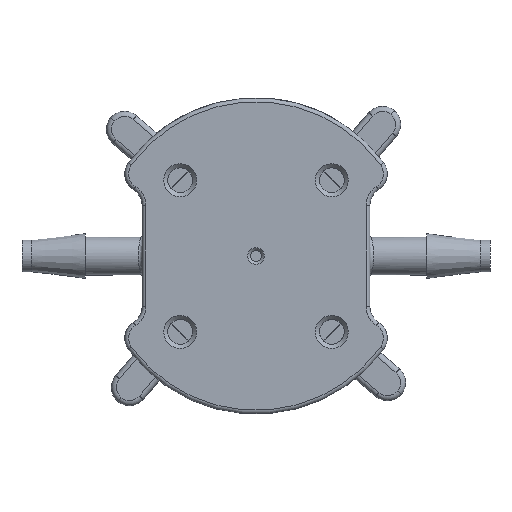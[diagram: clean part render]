
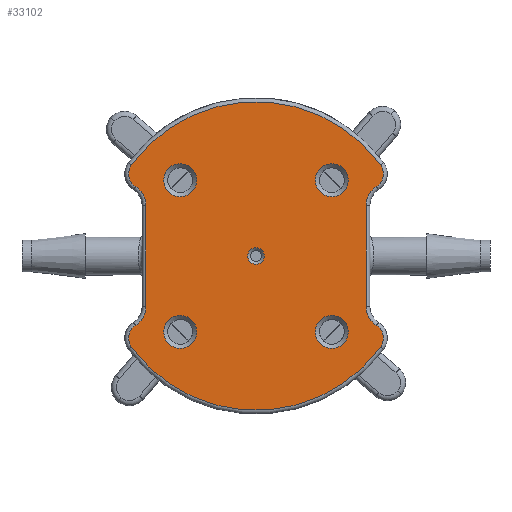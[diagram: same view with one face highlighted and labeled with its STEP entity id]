
A CAD part, front view. The second image highlights one B-rep face of the part: STEP entity #33102.
In plain terms, the highlighted planar face has unit normal (0, -1, 0).
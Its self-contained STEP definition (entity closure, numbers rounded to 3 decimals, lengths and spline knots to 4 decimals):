
#2892=LINE('',#55126,#5907);
#2894=LINE('',#55159,#5909);
#5907=VECTOR('',#41559,0.3937);
#5909=VECTOR('',#41603,0.3937);
#7516=FACE_BOUND('',#10645,.T.);
#7517=FACE_BOUND('',#10646,.T.);
#7518=FACE_BOUND('',#10647,.T.);
#7519=FACE_BOUND('',#10648,.T.);
#7520=FACE_BOUND('',#10649,.T.);
#8807=FACE_OUTER_BOUND('',#10644,.T.);
#10644=EDGE_LOOP('',(#26426,#26427,#26428,#26429,#26430,#26431,#26432,#26433,
#26434,#26435,#26436,#26437));
#10645=EDGE_LOOP('',(#26438));
#10646=EDGE_LOOP('',(#26439));
#10647=EDGE_LOOP('',(#26440));
#10648=EDGE_LOOP('',(#26441));
#10649=EDGE_LOOP('',(#26442));
#11677=CIRCLE('',#35166,0.18);
#11682=CIRCLE('',#35172,0.12);
#11685=CIRCLE('',#35176,1.22);
#11688=CIRCLE('',#35180,0.12);
#11691=CIRCLE('',#35184,0.18);
#11695=CIRCLE('',#35190,0.18);
#11698=CIRCLE('',#35194,0.12);
#11701=CIRCLE('',#35198,1.22);
#11704=CIRCLE('',#35202,0.12);
#11707=CIRCLE('',#35206,0.18);
#11713=CIRCLE('',#35220,0.13);
#11714=CIRCLE('',#35221,0.13);
#11715=CIRCLE('',#35222,0.13);
#11716=CIRCLE('',#35223,0.13);
#11717=CIRCLE('',#35224,0.065);
#14309=VERTEX_POINT('',#55090);
#14310=VERTEX_POINT('',#55092);
#14312=VERTEX_POINT('',#55098);
#14314=VERTEX_POINT('',#55104);
#14316=VERTEX_POINT('',#55110);
#14318=VERTEX_POINT('',#55116);
#14320=VERTEX_POINT('',#55122);
#14322=VERTEX_POINT('',#55128);
#14324=VERTEX_POINT('',#55134);
#14326=VERTEX_POINT('',#55140);
#14328=VERTEX_POINT('',#55146);
#14330=VERTEX_POINT('',#55152);
#14340=VERTEX_POINT('',#55200);
#14341=VERTEX_POINT('',#55202);
#14342=VERTEX_POINT('',#55204);
#14343=VERTEX_POINT('',#55206);
#14344=VERTEX_POINT('',#55208);
#18475=EDGE_CURVE('',#14309,#14310,#11677,.T.);
#18480=EDGE_CURVE('',#14310,#14312,#11682,.T.);
#18483=EDGE_CURVE('',#14312,#14314,#11685,.T.);
#18486=EDGE_CURVE('',#14314,#14316,#11688,.T.);
#18489=EDGE_CURVE('',#14316,#14318,#11691,.T.);
#18492=EDGE_CURVE('',#14318,#14320,#2892,.T.);
#18495=EDGE_CURVE('',#14320,#14322,#11695,.T.);
#18498=EDGE_CURVE('',#14322,#14324,#11698,.T.);
#18501=EDGE_CURVE('',#14324,#14326,#11701,.T.);
#18504=EDGE_CURVE('',#14326,#14328,#11704,.T.);
#18507=EDGE_CURVE('',#14328,#14330,#11707,.T.);
#18509=EDGE_CURVE('',#14330,#14309,#2894,.T.);
#18526=EDGE_CURVE('',#14340,#14340,#11713,.T.);
#18527=EDGE_CURVE('',#14341,#14341,#11714,.T.);
#18528=EDGE_CURVE('',#14342,#14342,#11715,.T.);
#18529=EDGE_CURVE('',#14343,#14343,#11716,.T.);
#18530=EDGE_CURVE('',#14344,#14344,#11717,.T.);
#26426=ORIENTED_EDGE('',*,*,#18475,.F.);
#26427=ORIENTED_EDGE('',*,*,#18509,.F.);
#26428=ORIENTED_EDGE('',*,*,#18507,.F.);
#26429=ORIENTED_EDGE('',*,*,#18504,.F.);
#26430=ORIENTED_EDGE('',*,*,#18501,.F.);
#26431=ORIENTED_EDGE('',*,*,#18498,.F.);
#26432=ORIENTED_EDGE('',*,*,#18495,.F.);
#26433=ORIENTED_EDGE('',*,*,#18492,.F.);
#26434=ORIENTED_EDGE('',*,*,#18489,.F.);
#26435=ORIENTED_EDGE('',*,*,#18486,.F.);
#26436=ORIENTED_EDGE('',*,*,#18483,.F.);
#26437=ORIENTED_EDGE('',*,*,#18480,.F.);
#26438=ORIENTED_EDGE('',*,*,#18526,.T.);
#26439=ORIENTED_EDGE('',*,*,#18527,.T.);
#26440=ORIENTED_EDGE('',*,*,#18528,.T.);
#26441=ORIENTED_EDGE('',*,*,#18529,.T.);
#26442=ORIENTED_EDGE('',*,*,#18530,.F.);
#29913=PLANE('',#35219);
#33102=ADVANCED_FACE('',(#8807,#7516,#7517,#7518,#7519,#7520),#29913,.T.);
#35166=AXIS2_PLACEMENT_3D('',#55093,#41516,#41517);
#35172=AXIS2_PLACEMENT_3D('',#55102,#41528,#41529);
#35176=AXIS2_PLACEMENT_3D('',#55108,#41536,#41537);
#35180=AXIS2_PLACEMENT_3D('',#55114,#41544,#41545);
#35184=AXIS2_PLACEMENT_3D('',#55120,#41552,#41553);
#35190=AXIS2_PLACEMENT_3D('',#55132,#41566,#41567);
#35194=AXIS2_PLACEMENT_3D('',#55138,#41574,#41575);
#35198=AXIS2_PLACEMENT_3D('',#55144,#41582,#41583);
#35202=AXIS2_PLACEMENT_3D('',#55150,#41590,#41591);
#35206=AXIS2_PLACEMENT_3D('',#55156,#41598,#41599);
#35219=AXIS2_PLACEMENT_3D('',#55199,#41636,#41637);
#35220=AXIS2_PLACEMENT_3D('',#55201,#41638,#41639);
#35221=AXIS2_PLACEMENT_3D('',#55203,#41640,#41641);
#35222=AXIS2_PLACEMENT_3D('',#55205,#41642,#41643);
#35223=AXIS2_PLACEMENT_3D('',#55207,#41644,#41645);
#35224=AXIS2_PLACEMENT_3D('',#55209,#41646,#41647);
#41516=DIRECTION('center_axis',(0.,-1.,0.));
#41517=DIRECTION('ref_axis',(0.878,0.,0.479));
#41528=DIRECTION('center_axis',(0.,1.,0.));
#41529=DIRECTION('ref_axis',(-0.983,0.,-0.182));
#41536=DIRECTION('center_axis',(0.,1.,0.));
#41537=DIRECTION('ref_axis',(0.,0.,
1.));
#41544=DIRECTION('center_axis',(0.,1.,0.));
#41545=DIRECTION('ref_axis',(0.983,0.,-0.182));
#41552=DIRECTION('center_axis',(0.,-1.,0.));
#41553=DIRECTION('ref_axis',(-0.878,0.,0.479));
#41559=DIRECTION('',(0.,0.,-1.));
#41566=DIRECTION('center_axis',(0.,-1.,0.));
#41567=DIRECTION('ref_axis',(-0.878,0.,-0.479));
#41574=DIRECTION('center_axis',(0.,1.,0.));
#41575=DIRECTION('ref_axis',(0.983,0.,0.182));
#41582=DIRECTION('center_axis',(0.,1.,0.));
#41583=DIRECTION('ref_axis',(0.,0.,
-1.));
#41590=DIRECTION('center_axis',(0.,1.,0.));
#41591=DIRECTION('ref_axis',(-0.983,0.,0.182));
#41598=DIRECTION('center_axis',(0.,-1.,0.));
#41599=DIRECTION('ref_axis',(0.878,0.,-0.479));
#41603=DIRECTION('',(0.,0.,1.));
#41636=DIRECTION('center_axis',(0.,-1.,0.));
#41637=DIRECTION('ref_axis',(0.,0.,-1.));
#41638=DIRECTION('center_axis',(0.,1.,0.));
#41639=DIRECTION('ref_axis',(1.,0.,0.));
#41640=DIRECTION('center_axis',(0.,1.,0.));
#41641=DIRECTION('ref_axis',(1.,0.,0.));
#41642=DIRECTION('center_axis',(0.,1.,0.));
#41643=DIRECTION('ref_axis',(1.,0.,0.));
#41644=DIRECTION('center_axis',(0.,1.,0.));
#41645=DIRECTION('ref_axis',(1.,0.,0.));
#41646=DIRECTION('center_axis',(0.,-1.,0.));
#41647=DIRECTION('ref_axis',(1.,0.,0.));
#55090=CARTESIAN_POINT('',(-0.87,-0.9578,0.3979));
#55092=CARTESIAN_POINT('',(-0.9524,-0.9578,0.5492));
#55093=CARTESIAN_POINT('Origin',(-1.05,-0.9578,0.3979));
#55098=CARTESIAN_POINT('',(-0.9842,-0.9578,0.7209));
#55102=CARTESIAN_POINT('Origin',(-0.8874,-0.9578,
0.65));
#55104=CARTESIAN_POINT('',(0.9842,-0.9578,0.7209));
#55108=CARTESIAN_POINT('Origin',(0.,-0.9578,
0.));
#55110=CARTESIAN_POINT('',(0.9524,-0.9578,0.5492));
#55114=CARTESIAN_POINT('Origin',(0.8874,-0.9578,0.65));
#55116=CARTESIAN_POINT('',(0.87,-0.9578,0.3979));
#55120=CARTESIAN_POINT('Origin',(1.05,-0.9578,0.3979));
#55122=CARTESIAN_POINT('',(0.87,-0.9578,-0.3979));
#55126=CARTESIAN_POINT('',(0.87,-0.9578,0.));
#55128=CARTESIAN_POINT('',(0.9524,-0.9578,-0.5492));
#55132=CARTESIAN_POINT('Origin',(1.05,-0.9578,-0.3979));
#55134=CARTESIAN_POINT('',(0.9842,-0.9578,-0.7209));
#55138=CARTESIAN_POINT('Origin',(0.8874,-0.9578,-0.65));
#55140=CARTESIAN_POINT('',(-0.9842,-0.9578,-0.7209));
#55144=CARTESIAN_POINT('Origin',(0.,-0.9578,
0.));
#55146=CARTESIAN_POINT('',(-0.9524,-0.9578,-0.5492));
#55150=CARTESIAN_POINT('Origin',(-0.8874,-0.9578,-0.65));
#55152=CARTESIAN_POINT('',(-0.87,-0.9578,-0.3979));
#55156=CARTESIAN_POINT('Origin',(-1.05,-0.9578,-0.3979));
#55159=CARTESIAN_POINT('',(-0.87,-0.9578,0.));
#55199=CARTESIAN_POINT('Origin',(0.,-0.9578,
0.));
#55200=CARTESIAN_POINT('',(0.4693,-0.9578,-0.5993));
#55201=CARTESIAN_POINT('Origin',(0.5993,-0.9578,-0.5993));
#55202=CARTESIAN_POINT('',(-0.7293,-0.9578,0.5993));
#55203=CARTESIAN_POINT('Origin',(-0.5993,-0.9578,0.5993));
#55204=CARTESIAN_POINT('',(0.4693,-0.9578,0.5993));
#55205=CARTESIAN_POINT('Origin',(0.5993,-0.9578,0.5993));
#55206=CARTESIAN_POINT('',(-0.7293,-0.9578,-0.5993));
#55207=CARTESIAN_POINT('Origin',(-0.5993,-0.9578,-0.5993));
#55208=CARTESIAN_POINT('',(-0.065,-0.9578,0.));
#55209=CARTESIAN_POINT('Origin',(0.,-0.9578,
0.));
